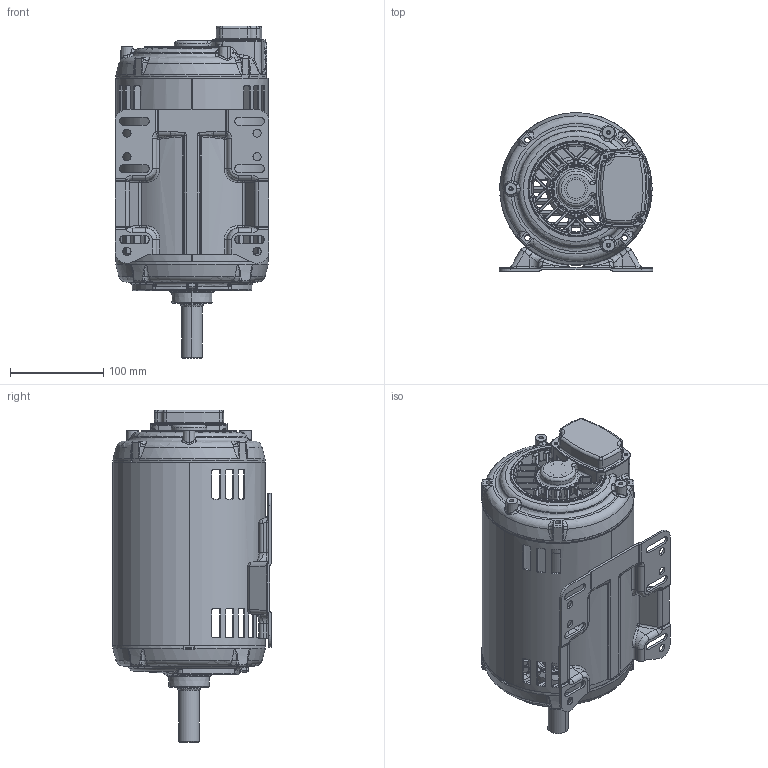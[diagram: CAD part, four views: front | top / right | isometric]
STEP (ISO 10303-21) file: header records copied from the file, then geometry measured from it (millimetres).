
FILE_DESCRIPTION((''),'2;1');
FILE_NAME('140_ASM','2015-06-04T',('NMC2342'),('Nidec Motor Corporation'),'PRO/ENGINEER BY PARAMETRIC TECHNOLOGY CORPORATION, 2013150','PRO/ENGINEER BY PARAMETRIC TECHNOLOGY CORPORATION, 2013150','');
FILE_SCHEMA(('CONFIG_CONTROL_DESIGN'));
Length unit declared in the file: inch
Products named in the file (8): 0486941AM02_AF0; 0152008; 0136086; 0774783; B352773860001_DP; 2037990; 2030599-001; 140_ASM
Assembly tree (7 placements, depth 2):
  140_ASM
    0486941AM02_AF0
    0152008
    0136086
    0774783
    B352773860001_DP
    2037990
    2030599-001
Bounding box: 165.1 x 169.98 x 356.45 mm (x, y, z)
Volume: 661813.8 mm3; surface area: 463732.7 mm2
Topology: 9 solids, 9 shells, 2358 faces, 5848 edges, 3492 vertices
Faces by surface type: bspline 971, plane 394, cylinder 360, torus 305, cone 247, sphere 81
Entity records: 108088 total; most frequent: CARTESIAN_POINT 58730, ORIENTED_EDGE 11694, DIRECTION 8570, EDGE_CURVE 5847, AXIS2_PLACEMENT_3D 3642, VERTEX_POINT 3492, EDGE_LOOP 2489, FACE_OUTER_BOUND 2358
